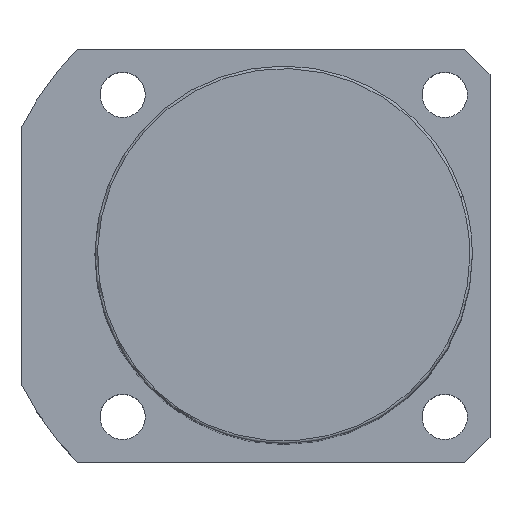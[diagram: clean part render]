
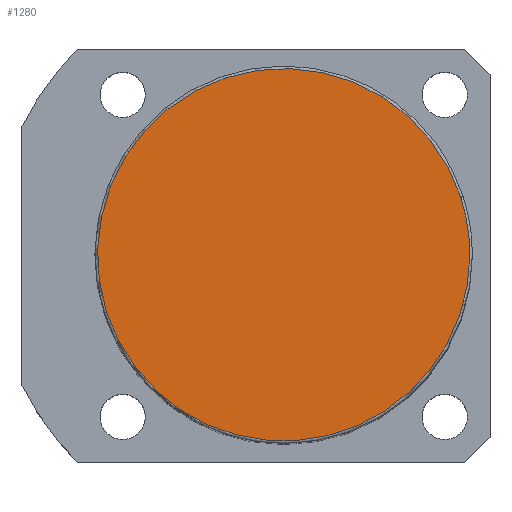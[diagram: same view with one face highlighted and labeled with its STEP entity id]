
A CAD part, top view. The second image highlights one B-rep face of the part: STEP entity #1280.
In plain terms, the highlighted planar face has unit normal (0, 0, 1).
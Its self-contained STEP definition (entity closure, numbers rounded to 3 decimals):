
#1246=CARTESIAN_POINT('',(37.0,0.0,143.0));
#1247=VERTEX_POINT('',#1246);
#1248=CARTESIAN_POINT('',(35.189,11.434,143.0));
#1249=VERTEX_POINT('',#1248);
#1250=CARTESIAN_POINT('',(0.0,0.0,143.0));
#1251=DIRECTION('',(0.0,0.0,1.0));
#1252=DIRECTION('',(1.0,0.0,0.0));
#1253=AXIS2_PLACEMENT_3D('',#1250,#1251,#1252);
#1254=CIRCLE('',#1253,37.0);
#1255=EDGE_CURVE('no 3965',#1247,#1249,#1254,.T.);
#1256=ORIENTED_EDGE('',*,*,#1255,.T.);
#1257=CARTESIAN_POINT('',(-35.189,-11.434,143.0));
#1258=VERTEX_POINT('',#1257);
#1259=CARTESIAN_POINT('',(0.0,0.0,143.0));
#1260=DIRECTION('',(0.0,0.0,1.0));
#1261=DIRECTION('',(1.0,0.0,0.0));
#1262=AXIS2_PLACEMENT_3D('',#1259,#1260,#1261);
#1263=CIRCLE('',#1262,37.0);
#1264=EDGE_CURVE('no 3971',#1249,#1258,#1263,.T.);
#1265=ORIENTED_EDGE('',*,*,#1264,.T.);
#1266=CARTESIAN_POINT('',(0.0,0.0,143.0));
#1267=DIRECTION('',(0.0,0.0,1.0));
#1268=DIRECTION('',(1.0,0.0,0.0));
#1269=AXIS2_PLACEMENT_3D('',#1266,#1267,#1268);
#1270=CIRCLE('',#1269,37.0);
#1271=EDGE_CURVE('no 3975',#1258,#1247,#1270,.T.);
#1272=ORIENTED_EDGE('',*,*,#1271,.T.);
#1273=EDGE_LOOP('',(#1256,#1265,#1272));
#1274=FACE_OUTER_BOUND('',#1273,.T.);
#1275=CARTESIAN_POINT('',(0.0,0.0,143.0));
#1276=DIRECTION('',(0.0,0.0,1.0));
#1277=DIRECTION('',(1.0,0.0,0.0));
#1278=AXIS2_PLACEMENT_3D('',#1275,#1276,#1277);
#1279=PLANE('',#1278);
#1280=ADVANCED_FACE('no 3956',(#1274),#1279,.T.);
